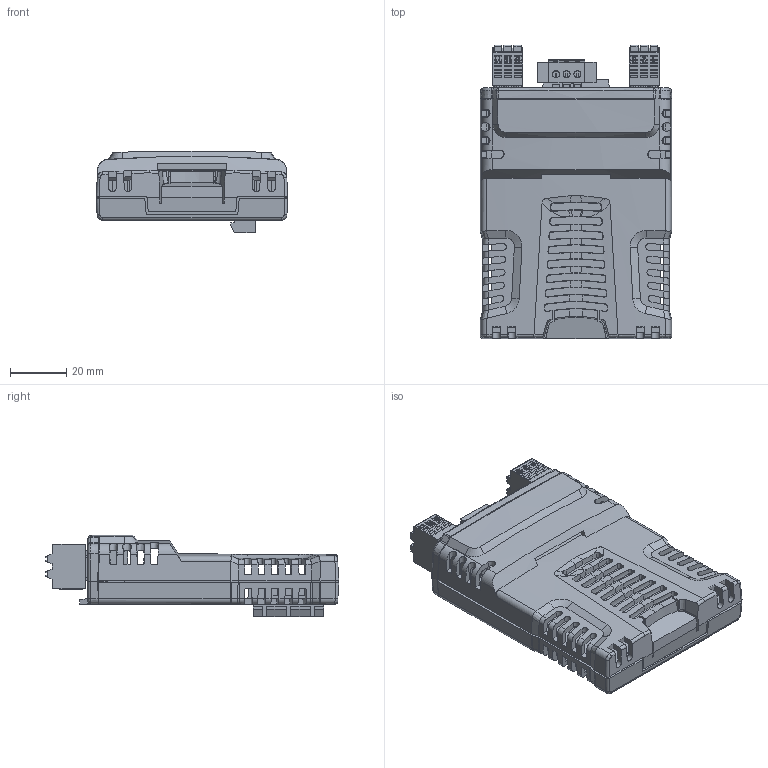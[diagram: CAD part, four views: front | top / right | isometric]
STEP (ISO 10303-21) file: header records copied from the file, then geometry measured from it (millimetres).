
FILE_DESCRIPTION((''),'2;1');
FILE_NAME('STEP_SW0001','2025-03-26T17:22:06',('kholpr01'),(''),'CREO PARAMETRIC BY PTC INC, 2018190','CREO PARAMETRIC BY PTC INC, 2018190','');
FILE_SCHEMA(('AUTOMOTIVE_DESIGN { 1 0 10303 214 1 1 1 1 }'));
Length unit declared in the file: millimetre
Products named in the file (1): STEP_SW0001
Bounding box: 67.97 x 104.17 x 29.07 mm (x, y, z)
Volume: 46076.1 mm3; surface area: 56764.2 mm2
Topology: 1 solids, 6 shells, 4350 faces, 12718 edges, 8366 vertices
Faces by surface type: plane 2772, cylinder 869, bspline 266, extrusion 218, cone 127, torus 62, sphere 36
Entity records: 195204 total; most frequent: CARTESIAN_POINT 47091, ORIENTED_EDGE 25396, DIRECTION 20511, EDGE_CURVE 12698, VECTOR 9029, LINE 8811, VERTEX_POINT 8366, AXIS2_PLACEMENT_3D 5741
